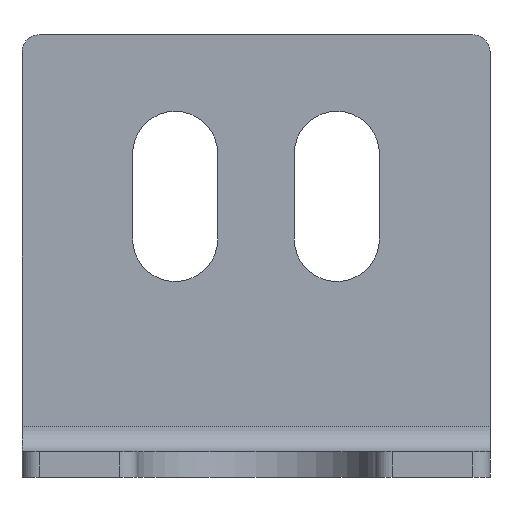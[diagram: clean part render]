
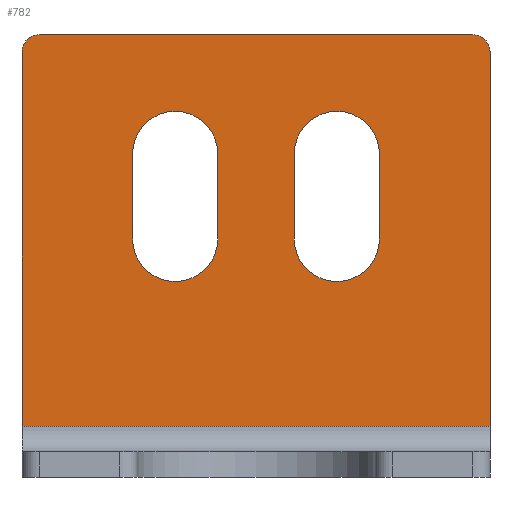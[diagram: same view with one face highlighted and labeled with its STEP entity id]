
A CAD part, front view. The second image highlights one B-rep face of the part: STEP entity #782.
In plain terms, the highlighted planar face has unit normal (0, -1, 0).
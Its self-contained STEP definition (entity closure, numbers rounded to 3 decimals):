
#305=CARTESIAN_POINT('',(25.5,-3.,52.0));
#306=VERTEX_POINT('',#305);
#313=CARTESIAN_POINT('',(27.5,-3.,50.0));
#314=VERTEX_POINT('',#313);
#315=CARTESIAN_POINT('',(25.5,-3.,50.0));
#316=DIRECTION('',(0.0,1.0,0.0));
#317=DIRECTION('',(0.707,0.0,0.707));
#318=AXIS2_PLACEMENT_3D('',#315,#316,#317);
#319=CIRCLE('',#318,2.);
#320=EDGE_CURVE('',#306,#314,#319,.T.);
#345=CARTESIAN_POINT('',(-25.5,-3.,52.0));
#346=VERTEX_POINT('',#345);
#353=CARTESIAN_POINT('',(25.5,-3.,52.0));
#354=DIRECTION('',(-1.0,0.0,0.0));
#355=VECTOR('',#354,51.0);
#356=LINE('',#353,#355);
#357=EDGE_CURVE('',#306,#346,#356,.T.);
#480=CARTESIAN_POINT('',(-27.5,-3.,50.0));
#481=VERTEX_POINT('',#480);
#482=CARTESIAN_POINT('',(-25.5,-3.,50.0));
#483=DIRECTION('',(0.0,1.0,0.0));
#484=DIRECTION('',(-0.707,0.0,0.707));
#485=AXIS2_PLACEMENT_3D('',#482,#483,#484);
#486=CIRCLE('',#485,2.);
#487=EDGE_CURVE('',#481,#346,#486,.T.);
#531=CARTESIAN_POINT('',(-27.5,-3.,6.));
#532=VERTEX_POINT('',#531);
#540=CARTESIAN_POINT('',(-27.5,-3.,50.0));
#541=DIRECTION('',(0.0,0.0,-1.0));
#542=VECTOR('',#541,44.);
#543=LINE('',#540,#542);
#544=EDGE_CURVE('',#481,#532,#543,.T.);
#555=CARTESIAN_POINT('',(14.5,-3.,38.0));
#556=VERTEX_POINT('',#555);
#563=CARTESIAN_POINT('',(4.5,-3.,38.0));
#564=VERTEX_POINT('',#563);
#565=CARTESIAN_POINT('',(9.5,-3.,38.0));
#566=DIRECTION('',(0.0,1.0,0.0));
#567=DIRECTION('',(1.0,0.0,0.0));
#568=AXIS2_PLACEMENT_3D('',#565,#566,#567);
#569=CIRCLE('',#568,5.0);
#570=EDGE_CURVE('',#564,#556,#569,.T.);
#588=CARTESIAN_POINT('',(4.5,-3.,28.));
#589=VERTEX_POINT('',#588);
#590=CARTESIAN_POINT('',(4.5,-3.,28.));
#591=DIRECTION('',(0.0,0.0,1.0));
#592=VECTOR('',#591,10.);
#593=LINE('',#590,#592);
#594=EDGE_CURVE('',#589,#564,#593,.T.);
#612=CARTESIAN_POINT('',(14.5,-3.,28.));
#613=VERTEX_POINT('',#612);
#614=CARTESIAN_POINT('',(9.5,-3.,28.));
#615=DIRECTION('',(0.0,1.0,0.0));
#616=DIRECTION('',(-1.0,0.0,0.0));
#617=AXIS2_PLACEMENT_3D('',#614,#615,#616);
#618=CIRCLE('',#617,5.0);
#619=EDGE_CURVE('',#613,#589,#618,.T.);
#637=CARTESIAN_POINT('',(14.5,-3.,38.0));
#638=DIRECTION('',(0.0,0.0,-1.0));
#639=VECTOR('',#638,10.);
#640=LINE('',#637,#639);
#641=EDGE_CURVE('',#556,#613,#640,.T.);
#653=CARTESIAN_POINT('',(-4.5,-3.,28.));
#654=VERTEX_POINT('',#653);
#661=CARTESIAN_POINT('',(-4.5,-3.,38.0));
#662=VERTEX_POINT('',#661);
#663=CARTESIAN_POINT('',(-4.5,-3.,38.0));
#664=DIRECTION('',(0.0,0.0,-1.0));
#665=VECTOR('',#664,10.);
#666=LINE('',#663,#665);
#667=EDGE_CURVE('',#662,#654,#666,.T.);
#685=CARTESIAN_POINT('',(-14.5,-3.,38.0));
#686=VERTEX_POINT('',#685);
#687=CARTESIAN_POINT('',(-9.5,-3.,38.0));
#688=DIRECTION('',(0.0,1.0,0.0));
#689=DIRECTION('',(-1.0,0.0,0.0));
#690=AXIS2_PLACEMENT_3D('',#687,#688,#689);
#691=CIRCLE('',#690,5.0);
#692=EDGE_CURVE('',#686,#662,#691,.T.);
#710=CARTESIAN_POINT('',(-14.5,-3.,28.));
#711=VERTEX_POINT('',#710);
#712=CARTESIAN_POINT('',(-14.5,-3.,28.));
#713=DIRECTION('',(0.0,0.0,1.0));
#714=VECTOR('',#713,10.);
#715=LINE('',#712,#714);
#716=EDGE_CURVE('',#711,#686,#715,.T.);
#734=CARTESIAN_POINT('',(-9.5,-3.,28.));
#735=DIRECTION('',(0.0,1.0,0.0));
#736=DIRECTION('',(1.0,0.0,0.0));
#737=AXIS2_PLACEMENT_3D('',#734,#735,#736);
#738=CIRCLE('',#737,5.0);
#739=EDGE_CURVE('',#654,#711,#738,.T.);
#745=CARTESIAN_POINT('',(27.5,-3.,52.0));
#746=DIRECTION('',(0.0,-1.0,0.0));
#747=DIRECTION('',(0.0,0.0,-1.0));
#748=AXIS2_PLACEMENT_3D('',#745,#746,#747);
#749=PLANE('',#748);
#750=ORIENTED_EDGE('',*,*,#320,.F.);
#751=ORIENTED_EDGE('',*,*,#357,.T.);
#752=ORIENTED_EDGE('',*,*,#487,.F.);
#753=ORIENTED_EDGE('',*,*,#544,.T.);
#754=CARTESIAN_POINT('',(27.5,-3.,6.));
#755=VERTEX_POINT('',#754);
#756=CARTESIAN_POINT('',(27.5,-3.,6.));
#757=DIRECTION('',(-1.0,0.0,0.0));
#758=VECTOR('',#757,55.0);
#759=LINE('',#756,#758);
#760=EDGE_CURVE('',#755,#532,#759,.T.);
#761=ORIENTED_EDGE('',*,*,#760,.F.);
#762=CARTESIAN_POINT('',(27.5,-3.,6.));
#763=DIRECTION('',(0.0,0.0,1.0));
#764=VECTOR('',#763,44.0);
#765=LINE('',#762,#764);
#766=EDGE_CURVE('',#755,#314,#765,.T.);
#767=ORIENTED_EDGE('',*,*,#766,.T.);
#768=EDGE_LOOP('',(#750,#751,#752,#753,#761,#767));
#769=FACE_OUTER_BOUND('',#768,.T.);
#770=ORIENTED_EDGE('',*,*,#619,.T.);
#771=ORIENTED_EDGE('',*,*,#594,.T.);
#772=ORIENTED_EDGE('',*,*,#570,.T.);
#773=ORIENTED_EDGE('',*,*,#641,.T.);
#774=EDGE_LOOP('',(#770,#771,#772,#773));
#775=FACE_BOUND('',#774,.T.);
#776=ORIENTED_EDGE('',*,*,#716,.T.);
#777=ORIENTED_EDGE('',*,*,#692,.T.);
#778=ORIENTED_EDGE('',*,*,#667,.T.);
#779=ORIENTED_EDGE('',*,*,#739,.T.);
#780=EDGE_LOOP('',(#776,#777,#778,#779));
#781=FACE_BOUND('',#780,.T.);
#782=ADVANCED_FACE('',(#769,#775,#781),#749,.T.);
